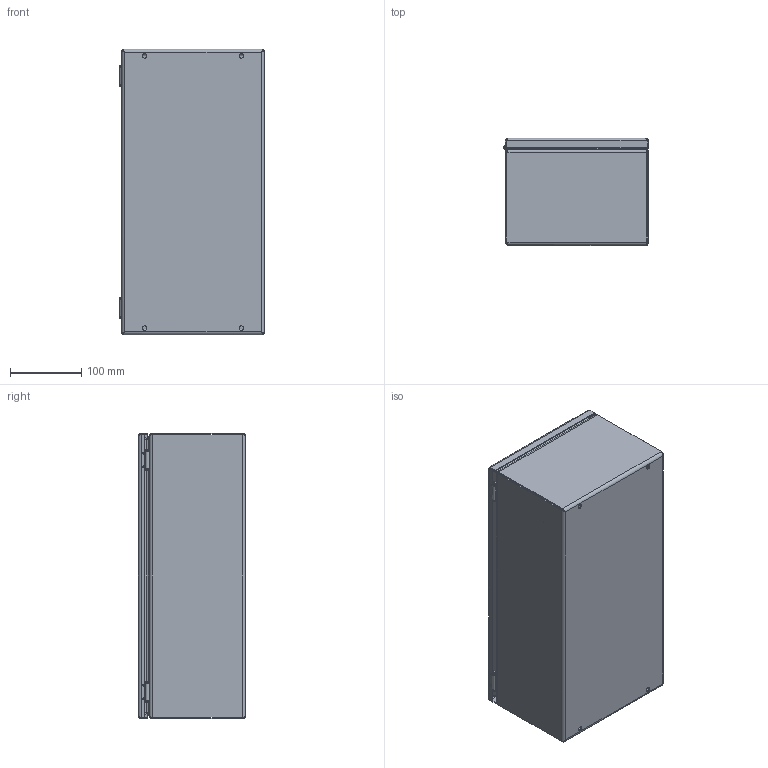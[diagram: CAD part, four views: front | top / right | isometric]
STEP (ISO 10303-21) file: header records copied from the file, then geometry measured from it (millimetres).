
FILE_DESCRIPTION (( 'STEP AP203' ), '1' );
FILE_NAME ('lwc204015ss.STEP', '2008-05-01T15:05:10', ( '' ), ( '' ), 'SwSTEP 2.0', 'SolidWorks 2007', '' );
FILE_SCHEMA (( 'CONFIG_CONTROL_DESIGN' ));
Length unit declared in the file: inch
Products named in the file (18): BodyInlineSS_200x400x150; 11258584_hinge_barrel; 48185001 Stud M6_1X16 Wide Base; WindowInline_200x400; Jason_Nygaard-inlineseal_insert_ring462380011; Jason_Nygaard-inlineinsert_slotted462360011; Jason_Nygaard-inlinescr_hex_m5x10461290031; lwc204015ss; WmtBodyInlineHingedSS_200x400x150; 11158190_weldnut; 11158173_hinge_brkt; Panel_Inline_200x400; AssyDoorInlineSS_200X400W; DoorInlineSS_200x400W; latch_46235001; Jason_Nygaard-inlineassy_14_turn_latch462350015; REL_0-4-REL_4cam_latch_small_global462370013; REL_0-4-REL_4std_housing_emka462390027
Assembly tree (23 placements, depth 5):
  lwc204015ss
    AssyDoorInlineSS_200X400W
      WindowInline_200x400
      DoorInlineSS_200x400W
      48185001 Stud M6_1X16 Wide Base
      latch_46235001
        Jason_Nygaard-inlineassy_14_turn_latch462350015
          REL_0-4-REL_4std_housing_emka462390027
          Jason_Nygaard-inlineseal_insert_ring462380011
          REL_0-4-REL_4cam_latch_small_global462370013
          Jason_Nygaard-inlineinsert_slotted462360011
          Jason_Nygaard-inlinescr_hex_m5x10461290031
      11258584_hinge_barrel  x2
    WmtBodyInlineHingedSS_200x400x150
      11158173_hinge_brkt  x2
      11158190_weldnut  x4
      BodyInlineSS_200x400x150
      48185001 Stud M6_1X16 Wide Base
    Panel_Inline_200x400
Bounding box: 202.71 x 150 x 400 mm (x, y, z)
Volume: 1015177.7 mm3; surface area: 871080.5 mm2
Topology: 19 solids, 19 shells, 615 faces, 1383 edges, 830 vertices
Faces by surface type: plane 251, cylinder 232, torus 54, bspline 52, cone 18, sphere 8
Entity records: 19958 total; most frequent: CARTESIAN_POINT 6766, DIRECTION 2341, ORIENTED_EDGE 2272, EDGE_CURVE 1136, AXIS2_PLACEMENT_3D 858, VERTEX_POINT 680, VECTOR 625, LINE 625
